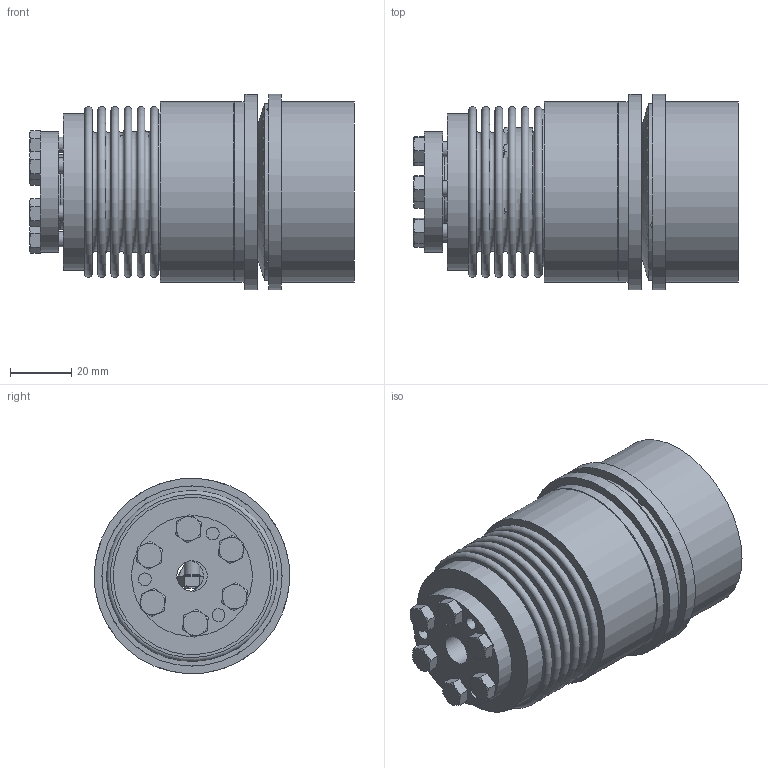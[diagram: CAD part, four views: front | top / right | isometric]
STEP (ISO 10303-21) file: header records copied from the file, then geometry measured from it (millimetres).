
FILE_DESCRIPTION( ( 'Unknown' ), '1' );
FILE_NAME( 'C:/Dokumente und Einstellungen/SKarpstein/Desktop/Korrigierte 3D Modelle/KBK-B-II/KBK-BII-30-94.stp', 'Unknown', ( 'Unknown' ), ( 'Unknown' ), 'XStep 1.0', 'Unknown', ' ' );
FILE_SCHEMA( ( 'automotive_design' ) );
Length unit declared in the file: millimetre
Products named in the file (12): Assem1; Assem2; Hex Screw GradeC_DIN_ISO 4018 - M5 x 20-NN_1; KB30_Standard_1; BA30_Standard_1; Stellring 30; Druckring 30; KBK L-I-30 Grundkörper; Konusbuchse KBK L-I-30; din_en_24017_m5x16; BL30_Standard_0; Flansch BI30
Bounding box: 106.3 x 64 x 64 mm (x, y, z)
Volume: 277900 mm3; surface area: 192329.6 mm2
Topology: 38 solids, 38 shells, 759 faces, 1571 edges, 996 vertices
Faces by surface type: plane 340, cone 191, cylinder 165, torus 63
Full cylindrical faces by diameter (mm): 3.242 x6, 4.134 x18, 4.2 x27, 5 x20, 5.5 x30, 6.88 x7, 10 x3, 12 x4, 23.9 x2, 24.4 x5, 25 x4, 34 x2, 37 x5, 38 x4, 39.5 x5, 40 x2, 46.5 x4, 47.3 x4, 51.5 x3, 52 x2, 58 x2, 59 x4, 64 x2
Entity records: 5847 total; most frequent: CARTESIAN_POINT 1244, DIRECTION 980, ORIENTED_EDGE 628, AXIS2_PLACEMENT_3D 466, EDGE_LOOP 434, EDGE_CURVE 314, FACE_OUTER_BOUND 306, VERTEX_POINT 266
